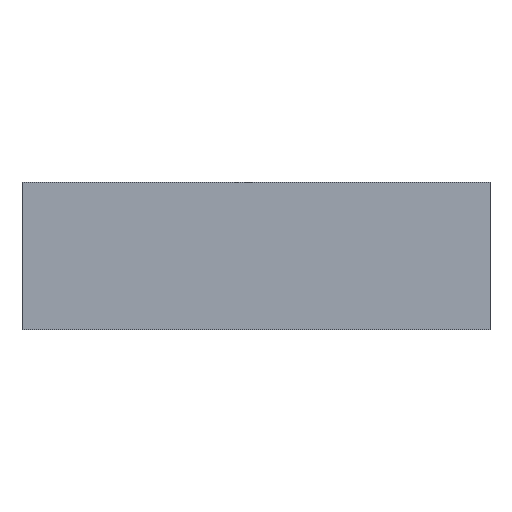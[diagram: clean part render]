
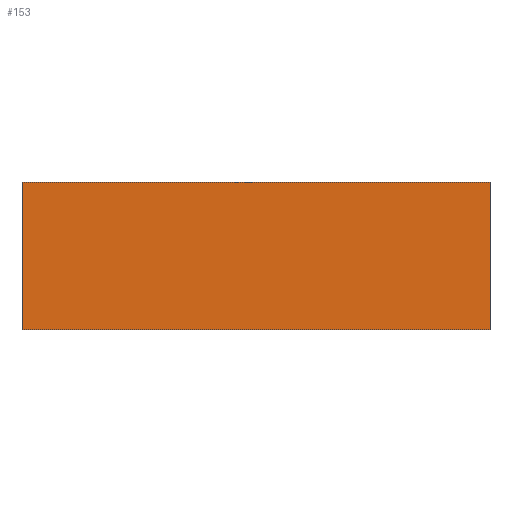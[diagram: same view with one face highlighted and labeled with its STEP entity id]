
A CAD part, top view. The second image highlights one B-rep face of the part: STEP entity #153.
In plain terms, the highlighted planar face has unit normal (0, 0, 1).
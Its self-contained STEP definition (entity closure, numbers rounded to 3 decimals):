
#24 = VERTEX_POINT('',#25);
#25 = CARTESIAN_POINT('',(-70.,-22.,2.));
#40 = VERTEX_POINT('',#41);
#41 = CARTESIAN_POINT('',(-70.,22.,2.));
#47 = EDGE_CURVE('',#24,#40,#48,.T.);
#48 = LINE('',#49,#50);
#49 = CARTESIAN_POINT('',(-70.,-22.,2.));
#50 = VECTOR('',#51,1.);
#51 = DIRECTION('',(0.,1.,0.));
#64 = VERTEX_POINT('',#65);
#65 = CARTESIAN_POINT('',(70.,-22.,2.));
#80 = VERTEX_POINT('',#81);
#81 = CARTESIAN_POINT('',(70.,22.,2.));
#87 = EDGE_CURVE('',#64,#80,#88,.T.);
#88 = LINE('',#89,#90);
#89 = CARTESIAN_POINT('',(70.,-22.,2.));
#90 = VECTOR('',#91,1.);
#91 = DIRECTION('',(0.,1.,0.));
#108 = EDGE_CURVE('',#24,#64,#109,.T.);
#109 = LINE('',#110,#111);
#110 = CARTESIAN_POINT('',(-70.,-22.,2.));
#111 = VECTOR('',#112,1.);
#112 = DIRECTION('',(1.,0.,0.));
#130 = EDGE_CURVE('',#40,#80,#131,.T.);
#131 = LINE('',#132,#133);
#132 = CARTESIAN_POINT('',(-70.,22.,2.));
#133 = VECTOR('',#134,1.);
#134 = DIRECTION('',(1.,0.,0.));
#153 = ADVANCED_FACE('',(#154),#160,.T.);
#154 = FACE_BOUND('',#155,.T.);
#155 = EDGE_LOOP('',(#156,#157,#158,#159));
#156 = ORIENTED_EDGE('',*,*,#47,.F.);
#157 = ORIENTED_EDGE('',*,*,#108,.T.);
#158 = ORIENTED_EDGE('',*,*,#87,.T.);
#159 = ORIENTED_EDGE('',*,*,#130,.F.);
#160 = PLANE('',#161);
#161 = AXIS2_PLACEMENT_3D('',#162,#163,#164);
#162 = CARTESIAN_POINT('',(-70.,-22.,2.));
#163 = DIRECTION('',(0.,0.,1.));
#164 = DIRECTION('',(1.,0.,0.));
